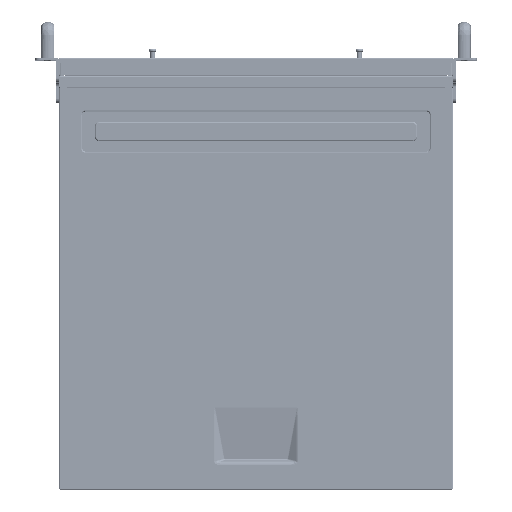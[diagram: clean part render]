
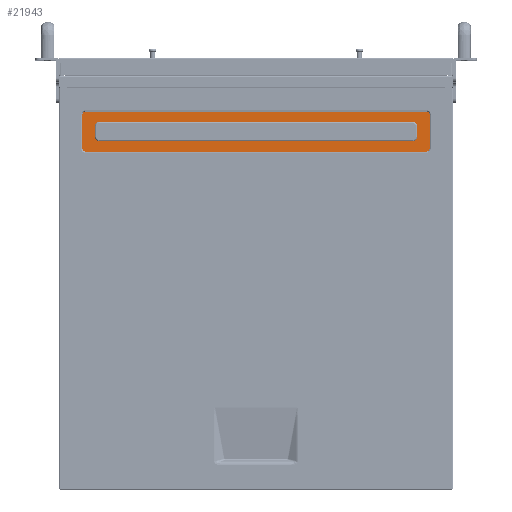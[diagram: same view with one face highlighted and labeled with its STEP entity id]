
A CAD part, top view. The second image highlights one B-rep face of the part: STEP entity #21943.
In plain terms, the highlighted planar face has unit normal (0, 0, 1).
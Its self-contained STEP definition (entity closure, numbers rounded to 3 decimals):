
#7394=FACE_BOUND('',#58311,.T.);
#21943=ADVANCED_FACE('',(#38972,#7394),#302726,.T.);
#38972=FACE_OUTER_BOUND('',#58310,.T.);
#58310=EDGE_LOOP('',(#141655,#141656,#141657,#141658,#141659,#141660,#141661,
#141662));
#58311=EDGE_LOOP('',(#141663,#141664,#141665,#141666,#141667,#141668,#141669,
#141670));
#141655=ORIENTED_EDGE('',*,*,#196690,.T.);
#141656=ORIENTED_EDGE('',*,*,#196688,.T.);
#141657=ORIENTED_EDGE('',*,*,#196683,.T.);
#141658=ORIENTED_EDGE('',*,*,#196680,.T.);
#141659=ORIENTED_EDGE('',*,*,#196675,.T.);
#141660=ORIENTED_EDGE('',*,*,#196672,.T.);
#141661=ORIENTED_EDGE('',*,*,#196667,.T.);
#141662=ORIENTED_EDGE('',*,*,#196663,.T.);
#141663=ORIENTED_EDGE('',*,*,#196694,.T.);
#141664=ORIENTED_EDGE('',*,*,#196701,.T.);
#141665=ORIENTED_EDGE('',*,*,#196693,.T.);
#141666=ORIENTED_EDGE('',*,*,#196706,.T.);
#141667=ORIENTED_EDGE('',*,*,#196692,.T.);
#141668=ORIENTED_EDGE('',*,*,#196711,.T.);
#141669=ORIENTED_EDGE('',*,*,#196691,.T.);
#141670=ORIENTED_EDGE('',*,*,#196695,.T.);
#196663=EDGE_CURVE('',#283732,#283733,#209079,.T.);
#196667=EDGE_CURVE('',#283735,#283732,#251698,.T.);
#196672=EDGE_CURVE('',#283737,#283735,#209084,.T.);
#196675=EDGE_CURVE('',#283739,#283737,#251702,.T.);
#196680=EDGE_CURVE('',#283741,#283739,#209088,.T.);
#196683=EDGE_CURVE('',#283743,#283741,#251706,.T.);
#196688=EDGE_CURVE('',#283745,#283743,#209092,.T.);
#196690=EDGE_CURVE('',#283733,#283745,#251710,.T.);
#196691=EDGE_CURVE('',#283748,#283746,#251711,.T.);
#196692=EDGE_CURVE('',#283750,#283749,#251712,.T.);
#196693=EDGE_CURVE('',#283752,#283751,#251713,.T.);
#196694=EDGE_CURVE('',#283747,#283753,#251714,.T.);
#196695=EDGE_CURVE('',#283746,#283747,#209093,.T.);
#196701=EDGE_CURVE('',#283753,#283752,#209098,.T.);
#196706=EDGE_CURVE('',#283751,#283750,#209102,.T.);
#196711=EDGE_CURVE('',#283749,#283748,#209106,.T.);
#209079=TRIMMED_CURVE($,#215115,(#533314),(#533315),.T.,.CARTESIAN.);
#209084=TRIMMED_CURVE($,#215120,(#533337),(#533338),.T.,.CARTESIAN.);
#209088=TRIMMED_CURVE($,#215124,(#533357),(#533358),.T.,.CARTESIAN.);
#209092=TRIMMED_CURVE($,#215128,(#533377),(#533378),.T.,.CARTESIAN.);
#209093=TRIMMED_CURVE($,#215129,(#533392),(#533393),.T.,.CARTESIAN.);
#209098=TRIMMED_CURVE($,#215134,(#533409),(#533410),.T.,.CARTESIAN.);
#209102=TRIMMED_CURVE($,#215138,(#533423),(#533424),.T.,.CARTESIAN.);
#209106=TRIMMED_CURVE($,#215142,(#533437),(#533438),.T.,.CARTESIAN.);
#215115=CIRCLE('',#323159,3.307);
#215120=CIRCLE('',#323164,3.307);
#215124=CIRCLE('',#323168,3.307);
#215128=CIRCLE('',#323172,3.307);
#215129=CIRCLE('',#323173,4.693);
#215134=CIRCLE('',#323178,4.693);
#215138=CIRCLE('',#323182,4.693);
#215142=CIRCLE('',#323186,4.693);
#251698=B_SPLINE_CURVE_WITH_KNOTS('',1,(#533324,#533325),.UNSPECIFIED.,
 .F.,.F.,(2,2),(0.,37.),.UNSPECIFIED.);
#251702=B_SPLINE_CURVE_WITH_KNOTS('',1,(#533344,#533345),.UNSPECIFIED.,
 .F.,.F.,(2,2),(0.,372.),.UNSPECIFIED.);
#251706=B_SPLINE_CURVE_WITH_KNOTS('',1,(#533364,#533365),.UNSPECIFIED.,
 .F.,.F.,(2,2),(0.,37.),.UNSPECIFIED.);
#251710=B_SPLINE_CURVE_WITH_KNOTS('',1,(#533381,#533382),.UNSPECIFIED.,
 .F.,.F.,(2,2),(0.,372.),.UNSPECIFIED.);
#251711=B_SPLINE_CURVE_WITH_KNOTS('',1,(#533383,#533384),.UNSPECIFIED.,
 .F.,.F.,(2,2),(-342.,0.),.UNSPECIFIED.);
#251712=B_SPLINE_CURVE_WITH_KNOTS('',1,(#533385,#533386),.UNSPECIFIED.,
 .F.,.F.,(2,2),(-12.,0.),.UNSPECIFIED.);
#251713=B_SPLINE_CURVE_WITH_KNOTS('',1,(#533387,#533388),.UNSPECIFIED.,
 .F.,.F.,(2,2),(-342.,0.),.UNSPECIFIED.);
#251714=B_SPLINE_CURVE_WITH_KNOTS('',1,(#533389,#533390),.UNSPECIFIED.,
 .F.,.F.,(2,2),(-12.,0.),.UNSPECIFIED.);
#283732=VERTEX_POINT('',#532574);
#283733=VERTEX_POINT('',#532575);
#283735=VERTEX_POINT('',#532577);
#283737=VERTEX_POINT('',#532579);
#283739=VERTEX_POINT('',#532581);
#283741=VERTEX_POINT('',#532583);
#283743=VERTEX_POINT('',#532585);
#283745=VERTEX_POINT('',#532587);
#283746=VERTEX_POINT('',#532588);
#283747=VERTEX_POINT('',#532589);
#283748=VERTEX_POINT('',#532590);
#283749=VERTEX_POINT('',#532591);
#283750=VERTEX_POINT('',#532592);
#283751=VERTEX_POINT('',#532593);
#283752=VERTEX_POINT('',#532594);
#283753=VERTEX_POINT('',#532595);
#302726=PLANE('',#323044);
#323044=AXIS2_PLACEMENT_3D('',#529644,#349976,$);
#323159=AXIS2_PLACEMENT_3D($,#533313,#350151,#350152);
#323164=AXIS2_PLACEMENT_3D($,#533336,#350161,#350162);
#323168=AXIS2_PLACEMENT_3D($,#533356,#350169,#350170);
#323172=AXIS2_PLACEMENT_3D($,#533376,#350177,#350178);
#323173=AXIS2_PLACEMENT_3D($,#533391,#350179,#350180);
#323178=AXIS2_PLACEMENT_3D($,#533408,#350189,#350190);
#323182=AXIS2_PLACEMENT_3D($,#533422,#350197,#350198);
#323186=AXIS2_PLACEMENT_3D($,#533436,#350205,#350206);
#349976=DIRECTION('',(0.,0.,1.));
#350151=DIRECTION('',(0.,0.,1.));
#350152=DIRECTION('',(-1.,0.,0.));
#350161=DIRECTION('',(0.,0.,1.));
#350162=DIRECTION('',(0.,1.,0.));
#350169=DIRECTION('',(0.,0.,1.));
#350170=DIRECTION('',(1.,0.,0.));
#350177=DIRECTION('',(0.,0.,1.));
#350178=DIRECTION('',(0.,-1.,0.));
#350179=DIRECTION('',(0.,0.,-1.));
#350180=DIRECTION('',(0.,-1.,0.));
#350189=DIRECTION('',(0.,0.,-1.));
#350190=DIRECTION('',(-1.,0.,0.));
#350197=DIRECTION('',(0.,0.,-1.));
#350198=DIRECTION('',(0.,1.,0.));
#350205=DIRECTION('',(0.,0.,-1.));
#350206=DIRECTION('',(1.,0.,0.));
#529644=CARTESIAN_POINT('',(240.806,108.794,87.));
#532574=CARTESIAN_POINT('',(-176.407,117.2,87.));
#532575=CARTESIAN_POINT('',(-173.1,113.893,87.));
#532577=CARTESIAN_POINT('',(-176.407,154.2,87.));
#532579=CARTESIAN_POINT('',(-173.1,157.507,87.));
#532581=CARTESIAN_POINT('',(198.9,157.507,87.));
#532583=CARTESIAN_POINT('',(202.207,154.2,87.));
#532585=CARTESIAN_POINT('',(202.207,117.2,87.));
#532587=CARTESIAN_POINT('',(198.9,113.893,87.));
#532588=CARTESIAN_POINT('',(-158.1,125.007,87.));
#532589=CARTESIAN_POINT('',(-162.793,129.7,87.));
#532590=CARTESIAN_POINT('',(183.9,125.007,87.));
#532591=CARTESIAN_POINT('',(188.593,129.7,87.));
#532592=CARTESIAN_POINT('',(188.593,141.7,87.));
#532593=CARTESIAN_POINT('',(183.9,146.393,87.));
#532594=CARTESIAN_POINT('',(-158.1,146.393,87.));
#532595=CARTESIAN_POINT('',(-162.793,141.7,87.));
#533313=CARTESIAN_POINT('',(-173.1,117.2,87.));
#533314=CARTESIAN_POINT('',(-176.407,117.2,87.));
#533315=CARTESIAN_POINT('',(-173.1,113.893,87.));
#533324=CARTESIAN_POINT('',(-176.407,154.2,87.));
#533325=CARTESIAN_POINT('',(-176.407,117.2,87.));
#533336=CARTESIAN_POINT('',(-173.1,154.2,87.));
#533337=CARTESIAN_POINT('',(-173.1,157.507,87.));
#533338=CARTESIAN_POINT('',(-176.407,154.2,87.));
#533344=CARTESIAN_POINT('',(198.9,157.507,87.));
#533345=CARTESIAN_POINT('',(-173.1,157.507,87.));
#533356=CARTESIAN_POINT('',(198.9,154.2,87.));
#533357=CARTESIAN_POINT('',(202.207,154.2,87.));
#533358=CARTESIAN_POINT('',(198.9,157.507,87.));
#533364=CARTESIAN_POINT('',(202.207,117.2,87.));
#533365=CARTESIAN_POINT('',(202.207,154.2,87.));
#533376=CARTESIAN_POINT('',(198.9,117.2,87.));
#533377=CARTESIAN_POINT('',(198.9,113.893,87.));
#533378=CARTESIAN_POINT('',(202.207,117.2,87.));
#533381=CARTESIAN_POINT('',(-173.1,113.893,87.));
#533382=CARTESIAN_POINT('',(198.9,113.893,87.));
#533383=CARTESIAN_POINT('',(183.9,125.007,87.));
#533384=CARTESIAN_POINT('',(-158.1,125.007,87.));
#533385=CARTESIAN_POINT('',(188.593,141.7,87.));
#533386=CARTESIAN_POINT('',(188.593,129.7,87.));
#533387=CARTESIAN_POINT('',(-158.1,146.393,87.));
#533388=CARTESIAN_POINT('',(183.9,146.393,87.));
#533389=CARTESIAN_POINT('',(-162.793,129.7,87.));
#533390=CARTESIAN_POINT('',(-162.793,141.7,87.));
#533391=CARTESIAN_POINT('',(-158.1,129.7,87.));
#533392=CARTESIAN_POINT('',(-158.1,125.007,87.));
#533393=CARTESIAN_POINT('',(-162.793,129.7,87.));
#533408=CARTESIAN_POINT('',(-158.1,141.7,87.));
#533409=CARTESIAN_POINT('',(-162.793,141.7,87.));
#533410=CARTESIAN_POINT('',(-158.1,146.393,87.));
#533422=CARTESIAN_POINT('',(183.9,141.7,87.));
#533423=CARTESIAN_POINT('',(183.9,146.393,87.));
#533424=CARTESIAN_POINT('',(188.593,141.7,87.));
#533436=CARTESIAN_POINT('',(183.9,129.7,87.));
#533437=CARTESIAN_POINT('',(188.593,129.7,87.));
#533438=CARTESIAN_POINT('',(183.9,125.007,87.));
